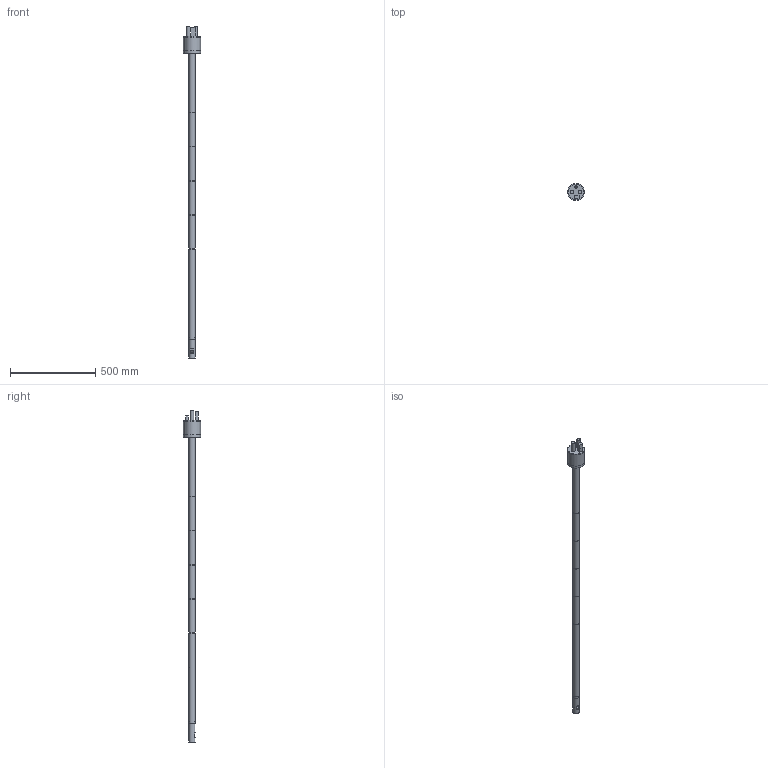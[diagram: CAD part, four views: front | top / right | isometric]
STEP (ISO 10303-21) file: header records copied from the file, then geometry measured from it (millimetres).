
FILE_DESCRIPTION(('Open CASCADE Model'),'2;1');
FILE_NAME('Open CASCADE Shape Model','2026-11-13T06:43:58',('Author'),( 'Open CASCADE'),'Open CASCADE STEP processor 7.9','Open CASCADE 7.9' ,'Unknown');
FILE_SCHEMA(('AUTOMOTIVE_DESIGN { 1 0 10303 214 1 1 1 1 }'));
Length unit declared in the file: millimetre
Products named in the file (38): T2a_Ic_probe; 00_HEAD_TUBE; 01_ROTOR; 02_CU_BLOCK_-; 03_BRAID_-; 04_CERNOX_-; 05_HEATER_-; 06_CU_BLOCK_+; 07_BRAID_+; 08_CERNOX_+; 09_HEATER_+; 10_SAMPLE; 11_HALL; 12_AXLE; 13_WORM_WHEEL; 14_WORM; 15_DRIVE_ROD; 16_LEAD_-; 17_HTS_LEAD_-; 18_VC_LEAD_-; 19_LEAD_+; 20_HTS_LEAD_+; 21_VC_LEAD_+; 22_TERMINAL_DISC; 23_HTS_BOARD; 24_PROBE_TUBE; 25_BAFFLE_600; 26_BAFFLE_800; 27_BAFFLE_1000; 28_BAFFLE_1200; 29_BAFFLE_1400; 30_FLANGE; 31_HEAD_BOX; 32_TERMINAL_-; 33_TERMINAL_+; 34_CONNECTOR_1; 35_CONNECTOR_2; 36_ROTATOR_MOTOR
Assembly tree (37 placements, depth 2):
  T2a_Ic_probe
    00_HEAD_TUBE
    01_ROTOR
    02_CU_BLOCK_-
    03_BRAID_-
    04_CERNOX_-
    05_HEATER_-
    06_CU_BLOCK_+
    07_BRAID_+
    08_CERNOX_+
    09_HEATER_+
    10_SAMPLE
    11_HALL
    12_AXLE
    13_WORM_WHEEL
    14_WORM
    15_DRIVE_ROD
    16_LEAD_-
    17_HTS_LEAD_-
    18_VC_LEAD_-
    19_LEAD_+
    20_HTS_LEAD_+
    21_VC_LEAD_+
    22_TERMINAL_DISC
    23_HTS_BOARD
    24_PROBE_TUBE
    25_BAFFLE_600
    26_BAFFLE_800
    27_BAFFLE_1000
    28_BAFFLE_1200
    29_BAFFLE_1400
    30_FLANGE
    31_HEAD_BOX
    32_TERMINAL_-
    33_TERMINAL_+
    34_CONNECTOR_1
    35_CONNECTOR_2
    36_ROTATOR_MOTOR
Bounding box: 100 x 100 x 1951 mm (x, y, z)
Volume: 640232.6 mm3; surface area: 631626.3 mm2
Topology: 37 solids, 37 shells, 201 faces, 387 edges, 257 vertices
Faces by surface type: plane 174, cylinder 27
Full cylindrical faces by diameter (mm): 3 x1, 4 x2, 4.4 x1, 8 x2, 10 x1, 15 x2, 20 x2, 32 x2, 34.8 x5, 35 x1, 36 x2, 92 x1, 100 x3
Entity records: 11183 total; most frequent: CARTESIAN_POINT 2054, DIRECTION 1589, LINE 935, VECTOR 935, ORIENTED_EDGE 774, PCURVE 774, DEFINITIONAL_REPRESENTATION 774, EDGE_CURVE 387
